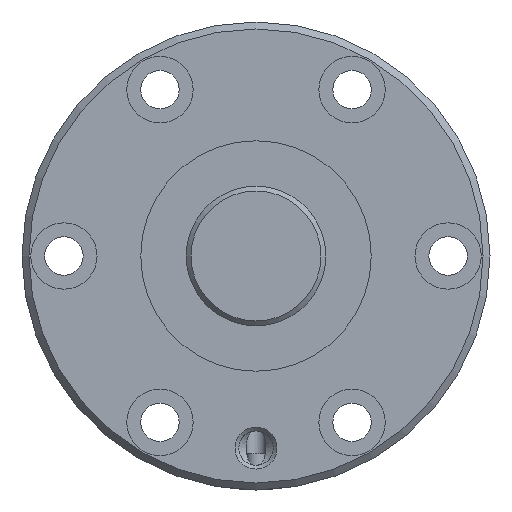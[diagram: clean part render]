
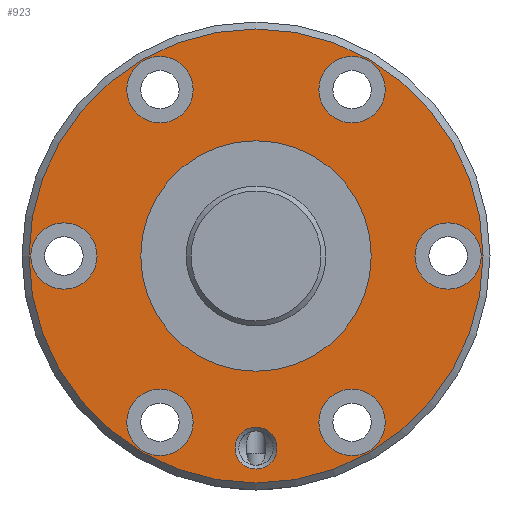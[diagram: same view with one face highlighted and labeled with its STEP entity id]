
A CAD part, left-side view. The second image highlights one B-rep face of the part: STEP entity #923.
In plain terms, the highlighted planar face has unit normal (-1, 0, 0).
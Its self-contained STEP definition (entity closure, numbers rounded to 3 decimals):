
#154=ORIENTED_EDGE('',*,*,#357,.T.);
#155=ORIENTED_EDGE('',*,*,#358,.T.);
#156=ORIENTED_EDGE('',*,*,#359,.T.);
#157=ORIENTED_EDGE('',*,*,#360,.T.);
#158=ORIENTED_EDGE('',*,*,#361,.T.);
#159=ORIENTED_EDGE('',*,*,#362,.T.);
#160=ORIENTED_EDGE('',*,*,#363,.T.);
#161=ORIENTED_EDGE('',*,*,#364,.T.);
#162=ORIENTED_EDGE('',*,*,#356,.F.);
#356=EDGE_CURVE('',#461,#461,#545,.T.);
#357=EDGE_CURVE('',#462,#462,#546,.T.);
#358=EDGE_CURVE('',#463,#463,#547,.F.);
#359=EDGE_CURVE('',#464,#464,#548,.T.);
#360=EDGE_CURVE('',#465,#465,#549,.T.);
#361=EDGE_CURVE('',#466,#466,#550,.T.);
#362=EDGE_CURVE('',#467,#467,#551,.T.);
#363=EDGE_CURVE('',#468,#468,#552,.T.);
#364=EDGE_CURVE('',#469,#469,#553,.T.);
#461=VERTEX_POINT('',#1548);
#462=VERTEX_POINT('',#1551);
#463=VERTEX_POINT('',#1553);
#464=VERTEX_POINT('',#1555);
#465=VERTEX_POINT('',#1557);
#466=VERTEX_POINT('',#1559);
#467=VERTEX_POINT('',#1561);
#468=VERTEX_POINT('',#1563);
#469=VERTEX_POINT('',#1565);
#545=CIRCLE('',#1030,32.5);
#546=CIRCLE('',#1032,16.5);
#547=CIRCLE('',#1033,4.75);
#548=CIRCLE('',#1034,3.);
#549=CIRCLE('',#1035,4.75);
#550=CIRCLE('',#1036,4.75);
#551=CIRCLE('',#1037,4.75);
#552=CIRCLE('',#1038,4.75);
#553=CIRCLE('',#1039,4.75);
#626=EDGE_LOOP('',(#154));
#627=EDGE_LOOP('',(#155));
#628=EDGE_LOOP('',(#156));
#629=EDGE_LOOP('',(#157));
#630=EDGE_LOOP('',(#158));
#631=EDGE_LOOP('',(#159));
#632=EDGE_LOOP('',(#160));
#633=EDGE_LOOP('',(#161));
#634=EDGE_LOOP('',(#162));
#766=FACE_BOUND('',#626,.T.);
#767=FACE_BOUND('',#627,.T.);
#768=FACE_BOUND('',#628,.T.);
#769=FACE_BOUND('',#629,.T.);
#770=FACE_BOUND('',#630,.T.);
#771=FACE_BOUND('',#631,.T.);
#772=FACE_BOUND('',#632,.T.);
#773=FACE_BOUND('',#633,.T.);
#774=FACE_BOUND('',#634,.T.);
#888=PLANE('',#1031);
#923=ADVANCED_FACE('',(#766,#767,#768,#769,#770,#771,#772,#773,#774),#888,
 .T.);
#1030=AXIS2_PLACEMENT_3D('',#1547,#1198,#1199);
#1031=AXIS2_PLACEMENT_3D('',#1549,#1200,#1201);
#1032=AXIS2_PLACEMENT_3D('',#1550,#1202,#1203);
#1033=AXIS2_PLACEMENT_3D('',#1552,#1204,#1205);
#1034=AXIS2_PLACEMENT_3D('',#1554,#1206,#1207);
#1035=AXIS2_PLACEMENT_3D('',#1556,#1208,#1209);
#1036=AXIS2_PLACEMENT_3D('',#1558,#1210,#1211);
#1037=AXIS2_PLACEMENT_3D('',#1560,#1212,#1213);
#1038=AXIS2_PLACEMENT_3D('',#1562,#1214,#1215);
#1039=AXIS2_PLACEMENT_3D('',#1564,#1216,#1217);
#1198=DIRECTION('',(1.,0.,0.));
#1199=DIRECTION('',(0.,0.,-1.));
#1200=DIRECTION('',(-1.,0.,0.));
#1201=DIRECTION('',(0.,0.,1.));
#1202=DIRECTION('',(1.,0.,0.));
#1203=DIRECTION('',(0.,0.,-1.));
#1204=DIRECTION('',(-1.,0.,0.));
#1205=DIRECTION('',(0.,0.,1.));
#1206=DIRECTION('',(1.,0.,0.));
#1207=DIRECTION('',(0.,0.,-1.));
#1208=DIRECTION('',(1.,0.,0.));
#1209=DIRECTION('',(0.,0.,-1.));
#1210=DIRECTION('',(1.,0.,0.));
#1211=DIRECTION('',(0.,0.,-1.));
#1212=DIRECTION('',(1.,0.,0.));
#1213=DIRECTION('',(0.,0.,-1.));
#1214=DIRECTION('',(1.,0.,0.));
#1215=DIRECTION('',(0.,0.,-1.));
#1216=DIRECTION('',(1.,0.,0.));
#1217=DIRECTION('',(0.,0.,-1.));
#1547=CARTESIAN_POINT('',(0.,0.,0.));
#1548=CARTESIAN_POINT('',(0.,0.,-32.5));
#1549=CARTESIAN_POINT('',(0.,32.5,0.));
#1550=CARTESIAN_POINT('',(0.,0.,0.));
#1551=CARTESIAN_POINT('',(0.,0.,-16.5));
#1552=CARTESIAN_POINT('',(0.,27.5,0.));
#1553=CARTESIAN_POINT('',(0.,27.5,4.75));
#1554=CARTESIAN_POINT('',(0.,0.,-27.5));
#1555=CARTESIAN_POINT('',(0.,0.,-30.5));
#1556=CARTESIAN_POINT('',(0.,-27.5,0.));
#1557=CARTESIAN_POINT('',(0.,-27.5,-4.75));
#1558=CARTESIAN_POINT('',(0.,13.75,23.816));
#1559=CARTESIAN_POINT('',(0.,13.75,19.066));
#1560=CARTESIAN_POINT('',(0.,-13.75,-23.816));
#1561=CARTESIAN_POINT('',(0.,-13.75,-28.566));
#1562=CARTESIAN_POINT('',(0.,-13.75,23.816));
#1563=CARTESIAN_POINT('',(0.,-13.75,19.066));
#1564=CARTESIAN_POINT('',(0.,13.75,-23.816));
#1565=CARTESIAN_POINT('',(0.,13.75,-28.566));
